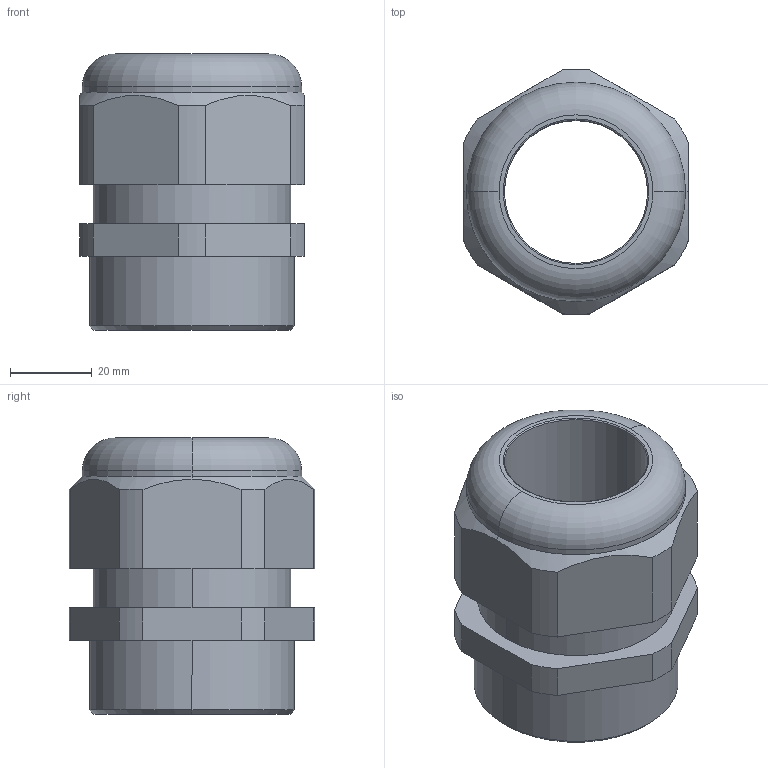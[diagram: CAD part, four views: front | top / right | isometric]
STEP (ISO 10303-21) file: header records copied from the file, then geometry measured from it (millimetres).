
FILE_DESCRIPTION (( 'STEP AP203' ), '1' );
FILE_NAME ('50.650 PA7001L.STEP', '2005-09-19T09:54:01', ( ' ' ), ( '' ), 'SwSTEP 2.0', 'SolidWorks 2005143', '' );
FILE_SCHEMA (( 'CONFIG_CONTROL_DESIGN' ));
Length unit declared in the file: millimetre
Products named in the file (1): 50.650 PA7001L
Bounding box: 55 x 59.96 x 67.5 mm (x, y, z)
Volume: 85427.5 mm3; surface area: 22756.3 mm2
Topology: 1 solids, 1 shells, 82 faces, 214 edges, 140 vertices
Faces by surface type: plane 54, cylinder 20, cone 4, torus 4
Entity records: 2668 total; most frequent: CARTESIAN_POINT 536, ORIENTED_EDGE 428, DIRECTION 422, EDGE_CURVE 214, VECTOR 156, LINE 156, VERTEX_POINT 140, AXIS2_PLACEMENT_3D 133
